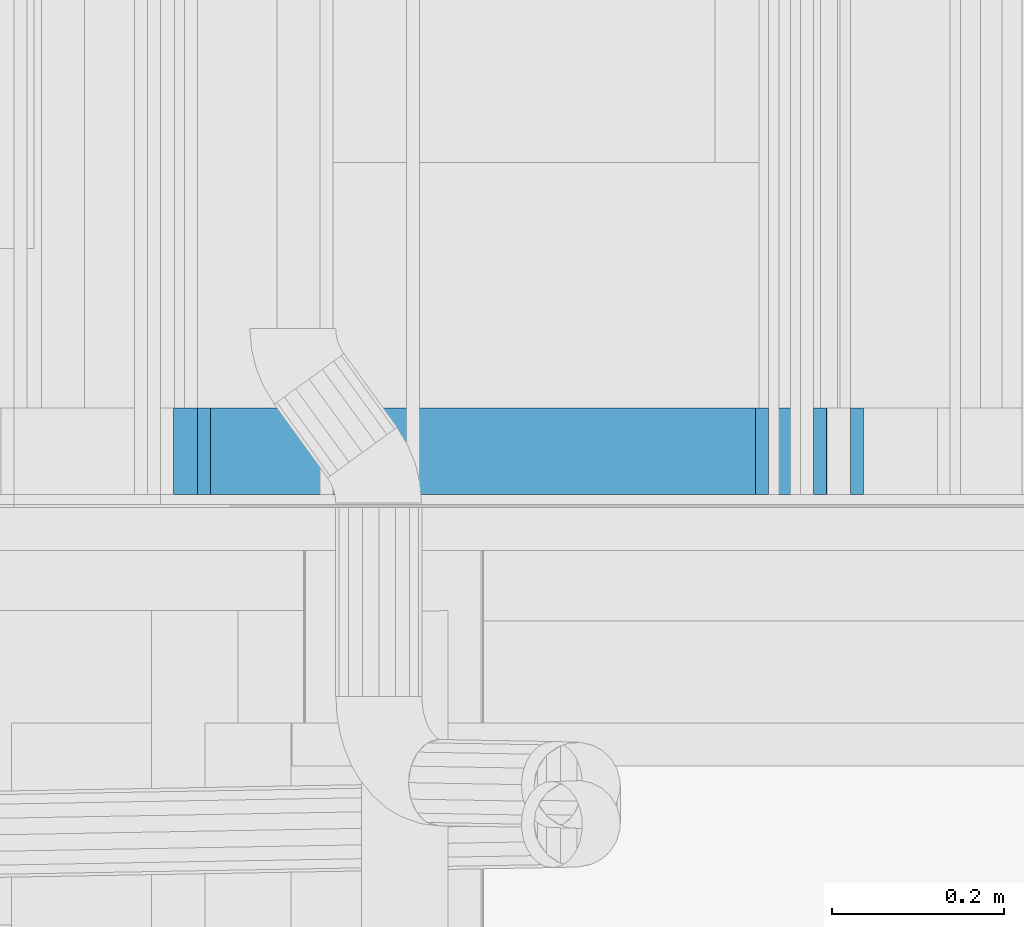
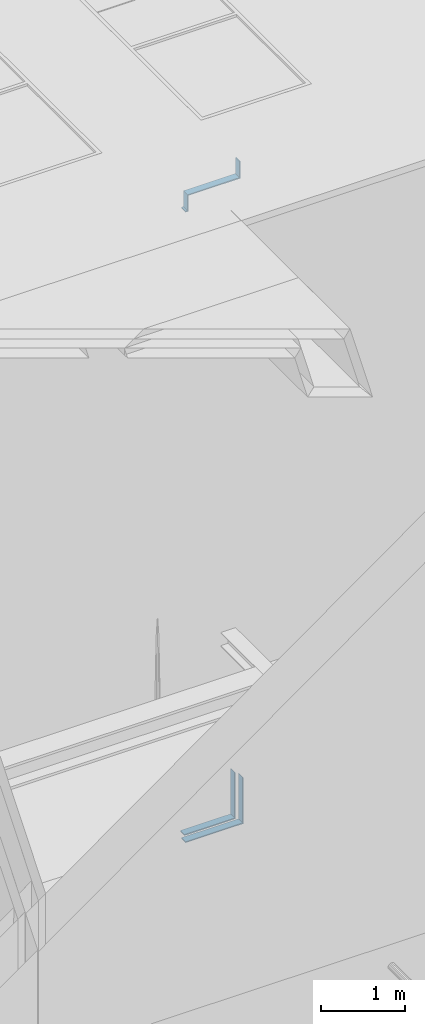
# One storey, part 186 of 583: 8 building element parts, 6 elements without a shape of their own.
"""IFC2X3 building model written with IfcOpenShell, lengths in metres."""

from ifc_helpers import new_model, entity, si_unit, converted_unit, derived_unit, money_unit, direction, frame, origin_with_axes, place, context, subcontext, project, spatial, polyline, outline, extrude, material, type_object, element, aggregate, save


model = new_model("IFC2X3")

# Units and contexts
model_context = context("Model", 3, precision=1e-05, world=origin_with_axes(), true_north=direction((0.0, 1.0)))
body_context = subcontext(model_context, "Body", "Model", "MODEL_VIEW", scale=1.0)
ifc_project = project(units=[si_unit("LENGTHUNIT", "METRE"), si_unit("AREAUNIT", "SQUARE_METRE"), si_unit("VOLUMEUNIT", "CUBIC_METRE"), si_unit("ABSORBEDDOSEUNIT", "GRAY"), si_unit("AMOUNTOFSUBSTANCEUNIT", "MOLE"), si_unit("DOSEEQUIVALENTUNIT", "SIEVERT"), si_unit("ELECTRICCAPACITANCEUNIT", "FARAD"), si_unit("ELECTRICCHARGEUNIT", "COULOMB"), si_unit("ELECTRICCONDUCTANCEUNIT", "SIEMENS"), si_unit("ELECTRICCURRENTUNIT", "AMPERE"), si_unit("ELECTRICRESISTANCEUNIT", "OHM"), si_unit("ELECTRICVOLTAGEUNIT", "VOLT"), si_unit("ENERGYUNIT", "JOULE"), si_unit("FORCEUNIT", "NEWTON"), si_unit("FREQUENCYUNIT", "HERTZ"), si_unit("ILLUMINANCEUNIT", "LUX"), si_unit("INDUCTANCEUNIT", "HENRY"), si_unit("LUMINOUSFLUXUNIT", "LUMEN"), si_unit("LUMINOUSINTENSITYUNIT", "CANDELA"), si_unit("MAGNETICFLUXDENSITYUNIT", "TESLA"), si_unit("MAGNETICFLUXUNIT", "WEBER"), si_unit("MASSUNIT", "GRAM"), converted_unit("PLANEANGLEUNIT", "degree", entity("IfcReal", 0.0174532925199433), si_unit("PLANEANGLEUNIT", "RADIAN"), dimensions=[0, 0, 0, 0, 0, 0, 0]), si_unit("POWERUNIT", "WATT"), si_unit("PRESSUREUNIT", "PASCAL"), si_unit("RADIOACTIVITYUNIT", "BECQUEREL"), si_unit("SOLIDANGLEUNIT", "STERADIAN"), si_unit("THERMODYNAMICTEMPERATUREUNIT", "KELVIN"), si_unit("TIMEUNIT", "SECOND"), derived_unit("ACCELERATIONUNIT", [(si_unit("LENGTHUNIT", "METRE"), 1), (si_unit("TIMEUNIT", "SECOND"), -2)]), derived_unit("ANGULARVELOCITYUNIT", [(converted_unit("PLANEANGLEUNIT", "degree", entity("IfcReal", 0.0174532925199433), si_unit("PLANEANGLEUNIT", "RADIAN"), dimensions=[0, 0, 0, 0, 0, 0, 0]), 1), (si_unit("TIMEUNIT", "SECOND"), -1)]), derived_unit("CURVATUREUNIT", [(converted_unit("PLANEANGLEUNIT", "degree", entity("IfcReal", 0.0174532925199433), si_unit("PLANEANGLEUNIT", "RADIAN"), dimensions=[0, 0, 0, 0, 0, 0, 0]), 1), (si_unit("LENGTHUNIT", "METRE"), -1)]), derived_unit("DYNAMICVISCOSITYUNIT", [(si_unit("PRESSUREUNIT", "PASCAL"), 1), (si_unit("TIMEUNIT", "SECOND"), 1)]), derived_unit("HEATFLUXDENSITYUNIT", [(si_unit("POWERUNIT", "WATT"), 1), (si_unit("LENGTHUNIT", "METRE"), -2)]), derived_unit("HEATINGVALUEUNIT", [(si_unit("ENERGYUNIT", "JOULE"), 1), (si_unit("MASSUNIT", "GRAM"), -1)]), derived_unit("INTEGERCOUNTRATEUNIT", [(si_unit("TIMEUNIT", "SECOND"), -1)]), derived_unit("IONCONCENTRATIONUNIT", [(si_unit("MASSUNIT", "GRAM"), 1), (si_unit("VOLUMEUNIT", "CUBIC_METRE"), -1)]), derived_unit("ISOTHERMALMOISTURECAPACITYUNIT", [(si_unit("VOLUMEUNIT", "CUBIC_METRE"), 1), (si_unit("MASSUNIT", "GRAM"), -1)]), derived_unit("KINEMATICVISCOSITYUNIT", [(si_unit("AREAUNIT", "SQUARE_METRE"), 1), (si_unit("TIMEUNIT", "SECOND"), -1)]), derived_unit("LINEARFORCEUNIT", [(si_unit("FORCEUNIT", "NEWTON"), 1), (si_unit("LENGTHUNIT", "METRE"), -1)]), derived_unit("LINEARMOMENTUNIT", [(si_unit("FORCEUNIT", "NEWTON"), 1), (si_unit("LENGTHUNIT", "METRE"), -1)]), derived_unit("LINEARSTIFFNESSUNIT", [(si_unit("FORCEUNIT", "NEWTON"), 1), (si_unit("LENGTHUNIT", "METRE"), -1)]), derived_unit("LINEARVELOCITYUNIT", [(si_unit("LENGTHUNIT", "METRE"), 1), (si_unit("TIMEUNIT", "SECOND"), -1)]), derived_unit("LUMINOUSINTENSITYDISTRIBUTIONUNIT", [(si_unit("LUMINOUSINTENSITYUNIT", "CANDELA"), 1), (si_unit("LUMINOUSFLUXUNIT", "LUMEN"), -1)]), derived_unit("MASSDENSITYUNIT", [(si_unit("MASSUNIT", "GRAM"), 1), (si_unit("VOLUMEUNIT", "CUBIC_METRE"), -1)]), derived_unit("MASSFLOWRATEUNIT", [(si_unit("MASSUNIT", "GRAM"), 1), (si_unit("TIMEUNIT", "SECOND"), -1)]), derived_unit("MASSPERLENGTHUNIT", [(si_unit("MASSUNIT", "GRAM"), 1), (si_unit("LENGTHUNIT", "METRE"), -1)]), derived_unit("MODULUSOFELASTICITYUNIT", [(si_unit("FORCEUNIT", "NEWTON"), 1), (si_unit("AREAUNIT", "SQUARE_METRE"), -1)]), derived_unit("MODULUSOFLINEARSUBGRADEREACTIONUNIT", [(si_unit("FORCEUNIT", "NEWTON"), 1), (si_unit("LENGTHUNIT", "METRE"), -2)]), derived_unit("MODULUSOFROTATIONALSUBGRADEREACTIONUNIT", [(si_unit("FORCEUNIT", "NEWTON"), 1), (si_unit("LENGTHUNIT", "METRE"), 1)]), derived_unit("MODULUSOFSUBGRADEREACTIONUNIT", [(si_unit("FORCEUNIT", "NEWTON"), 1), (si_unit("VOLUMEUNIT", "CUBIC_METRE"), -1)]), derived_unit("MOISTUREDIFFUSIVITYUNIT", [(si_unit("VOLUMEUNIT", "CUBIC_METRE"), 1), (si_unit("TIMEUNIT", "SECOND"), -1)]), derived_unit("MOLECULARWEIGHTUNIT", [(si_unit("MASSUNIT", "GRAM"), 1), (si_unit("AMOUNTOFSUBSTANCEUNIT", "MOLE"), -1)]), derived_unit("PLANARFORCEUNIT", [(si_unit("FORCEUNIT", "NEWTON"), 1), (si_unit("LENGTHUNIT", "METRE"), -2)]), derived_unit("ROTATIONALFREQUENCYUNIT", [(si_unit("TIMEUNIT", "SECOND"), -1)]), derived_unit("ROTATIONALMASSUNIT", [(si_unit("MASSUNIT", "GRAM"), 1), (si_unit("LENGTHUNIT", "METRE"), 2)]), derived_unit("ROTATIONALSTIFFNESSUNIT", [(si_unit("FORCEUNIT", "NEWTON"), 1), (si_unit("LENGTHUNIT", "METRE"), 1), (converted_unit("PLANEANGLEUNIT", "degree", entity("IfcReal", 0.0174532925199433), si_unit("PLANEANGLEUNIT", "RADIAN"), dimensions=[0, 0, 0, 0, 0, 0, 0]), -1)]), derived_unit("SECTIONAREAINTEGRALUNIT", [(si_unit("LENGTHUNIT", "METRE"), 5)]), derived_unit("SECTIONMODULUSUNIT", [(si_unit("LENGTHUNIT", "METRE"), 3)]), derived_unit("SHEARMODULUSUNIT", [(si_unit("FORCEUNIT", "NEWTON"), 1), (si_unit("AREAUNIT", "SQUARE_METRE"), -1)]), derived_unit("SOUNDPOWERUNIT", [(si_unit("ENERGYUNIT", "JOULE"), 1), (si_unit("TIMEUNIT", "SECOND"), -1)]), derived_unit("SPECIFICHEATCAPACITYUNIT", [(si_unit("FORCEUNIT", "NEWTON"), 1), (si_unit("MASSUNIT", "GRAM"), -1), (si_unit("THERMODYNAMICTEMPERATUREUNIT", "KELVIN"), -1)]), derived_unit("TEMPERATUREGRADIENTUNIT", [(si_unit("THERMODYNAMICTEMPERATUREUNIT", "KELVIN"), 1), (si_unit("LENGTHUNIT", "METRE"), -1)]), derived_unit("THERMALADMITTANCEUNIT", [(si_unit("POWERUNIT", "WATT"), 1), (si_unit("AREAUNIT", "SQUARE_METRE"), -1), (si_unit("THERMODYNAMICTEMPERATUREUNIT", "KELVIN"), -1)]), derived_unit("THERMALCONDUCTANCEUNIT", [(si_unit("POWERUNIT", "WATT"), 1), (si_unit("LENGTHUNIT", "METRE"), -1), (si_unit("THERMODYNAMICTEMPERATUREUNIT", "KELVIN"), -1)]), derived_unit("THERMALEXPANSIONCOEFFICIENTUNIT", [(si_unit("THERMODYNAMICTEMPERATUREUNIT", "KELVIN"), -1)]), derived_unit("THERMALRESISTANCEUNIT", [(si_unit("AREAUNIT", "SQUARE_METRE"), 1), (si_unit("POWERUNIT", "WATT"), -1)]), derived_unit("THERMALTRANSMITTANCEUNIT", [(si_unit("POWERUNIT", "WATT"), 1), (si_unit("AREAUNIT", "SQUARE_METRE"), -1), (si_unit("THERMODYNAMICTEMPERATUREUNIT", "KELVIN"), -1)]), derived_unit("TORQUEUNIT", [(si_unit("FORCEUNIT", "NEWTON"), 1), (si_unit("LENGTHUNIT", "METRE"), 1)]), derived_unit("VAPORPERMEABILITYUNIT", [(si_unit("MASSUNIT", "GRAM"), 1), (si_unit("TIMEUNIT", "SECOND"), -1)]), derived_unit("VOLUMETRICFLOWRATEUNIT", [(si_unit("VOLUMEUNIT", "CUBIC_METRE"), 1), (si_unit("TIMEUNIT", "SECOND"), -1)]), derived_unit("WARPINGCONSTANTUNIT", [(si_unit("LENGTHUNIT", "METRE"), 6)]), derived_unit("WARPINGMOMENTUNIT", [(si_unit("FORCEUNIT", "NEWTON"), 1), (si_unit("LENGTHUNIT", "METRE"), 2)]), money_unit("GBP")], contexts=[model_context])

# Site, building, storey
site_placement = place(None, origin_with_axes())
site = spatial("IfcSite", under=ifc_project, at=site_placement, Name="Site", CompositionType="ELEMENT")
building_placement = place(site_placement, origin_with_axes())
building = spatial("IfcBuilding", under=site, at=building_placement, Name="Building01", CompositionType="ELEMENT")
storey_placement = place(building_placement, frame((0.0, 0.0, 20.78), z_axis=(0.0, 0.0, 1.0), x_axis=(1.0, 0.0, 0.0)))
storey = spatial("IfcBuildingStorey", under=building, at=storey_placement, Name="RL", CompositionType="ELEMENT", Elevation=20.78)

# Wall, building element parts
wall_type_1 = type_object("IfcWallType", Name="SHE_A-Walls_Type05a_Partition_95mm_tall", PredefinedType="NOTDEFINED")
wall_1_placement = place(storey_placement, frame((8.82, 5.15, -3.506868), z_axis=(0.0, 1.0, 0.0), x_axis=(1.0, 0.0, 0.0)))
wall_1 = element("IfcWall", 1, at=wall_1_placement, inside=storey, type_object=wall_type_1, Name="5A", ObjectType="SHE_A-Walls_Type05a_Partition_95mm_tall")
ifc_material = material(Name="A_BSUK_Walls_Timber")
placement_1 = place(wall_1_placement, origin_with_axes())
building_element_part_1 = element("IfcBuildingElementPart", 2, at=placement_1, material=ifc_material, Name="2", context=body_context, shape_type="SweptSolid", body=[
    extrude(outline(polyline([(0.815, 0.05), (0.015, 0.05), (0.015, 0.035), (0.8, 0.035), (0.815, 0.05)])), frame((0.0, 0.0, 0.015), z_axis=(0.0, 0.0, 1.0), x_axis=(1.0, 0.0, 0.0)), (0.0, 0.0, 1.0), 0.1),
])
building_element_part_2 = element("IfcBuildingElementPart", 3, at=placement_1, material=ifc_material, Name="3", context=body_context, shape_type="SweptSolid", body=[
    extrude(outline(polyline([(0.705, -0.06), (0.0, -0.06), (0.0, -0.075), (0.69, -0.075), (0.705, -0.06)])), frame((0.0, 0.0, 0.015), z_axis=(0.0, 0.0, 1.0), x_axis=(1.0, 0.0, 0.0)), (0.0, 0.0, 1.0), 0.1),
])
aggregate(wall_1, [building_element_part_1, building_element_part_2])

wall_2_placement = place(storey_placement, frame((9.585, 5.15, -3.506868), z_axis=(0.0, 1.0, 0.0), x_axis=(0.0, 0.0, 1.0)))
wall_2 = element("IfcWall", 4, at=wall_2_placement, inside=storey, type_object=wall_type_1, Name="5A", ObjectType="SHE_A-Walls_Type05a_Partition_95mm_tall")
placement_2 = place(wall_2_placement, origin_with_axes())
building_element_part_3 = element("IfcBuildingElementPart", 5, at=placement_2, material=ifc_material, Name="2", context=body_context, shape_type="SweptSolid", body=[
    extrude(outline(polyline([(0.616868, 0.05), (-0.05, 0.05), (-0.035, 0.035), (0.631868, 0.035), (0.616868, 0.05)])), frame((0.0, 0.0, 0.015), z_axis=(0.0, 0.0, 1.0), x_axis=(1.0, 0.0, 0.0)), (0.0, 0.0, 1.0), 0.1),
])
building_element_part_4 = element("IfcBuildingElementPart", 6, at=placement_2, material=ifc_material, Name="3", context=body_context, shape_type="SweptSolid", body=[
    extrude(outline(polyline([(0.726868, -0.06), (0.06, -0.06), (0.075, -0.075), (0.741868, -0.075), (0.726868, -0.06)])), frame((0.0, 0.0, 0.015), z_axis=(0.0, 0.0, 1.0), x_axis=(1.0, 0.0, 0.0)), (0.0, 0.0, 1.0), 0.1),
])
aggregate(wall_2, [building_element_part_3, building_element_part_4])

# Wall, building element part
wall_type_2 = type_object("IfcWallType", Name="SHE_A-Walls_Type06f_ExternalWallInsulation_48+15mm", PredefinedType="NOTDEFINED")
wall_3_placement = place(storey_placement, frame((8.818, 5.15, 5.682), z_axis=(0.0, 1.0, 0.0), x_axis=(0.0, 0.0, 1.0)))
wall_3 = element("IfcWall", 7, at=wall_3_placement, inside=storey, type_object=wall_type_2, Name="6F", ObjectType="SHE_A-Walls_Type06f_ExternalWallInsulation_48+15mm")
building_element_part_5_placement = place(wall_3_placement, origin_with_axes())
building_element_part_5 = element("IfcBuildingElementPart", 8, at=building_element_part_5_placement, material=ifc_material, Name="2", context=body_context, shape_type="SweptSolid", body=[
    extrude(outline(polyline([(0.17, 0.06), (-0.06, 0.06), (-0.045, 0.045), (0.185, 0.045), (0.17, 0.06)])), frame((0.0, 0.0, 0.015), z_axis=(0.0, 0.0, 1.0), x_axis=(1.0, 0.0, 0.0)), (0.0, 0.0, 1.0), 0.1),
])
aggregate(wall_3, [building_element_part_5])

wall_4_placement = place(storey_placement, frame((8.818, 5.15, 5.912), z_axis=(0.0, 1.0, 0.0), x_axis=(1.0, 0.0, 0.0)))
wall_4 = element("IfcWall", 9, at=wall_4_placement, inside=storey, type_object=wall_type_2, Name="6F", ObjectType="SHE_A-Walls_Type06f_ExternalWallInsulation_48+15mm")
building_element_part_6_placement = place(wall_4_placement, origin_with_axes())
building_element_part_6 = element("IfcBuildingElementPart", 10, at=building_element_part_6_placement, material=ifc_material, Name="2", context=body_context, shape_type="SweptSolid", body=[
    extrude(outline(polyline([(0.77418, 0.06), (0.06, 0.06), (0.045, 0.045), (0.75918, 0.045), (0.77418, 0.06)])), frame((0.0, 0.0, 0.015), z_axis=(0.0, 0.0, 1.0), x_axis=(1.0, 0.0, 0.0)), (0.0, 0.0, 1.0), 0.1),
])
aggregate(wall_4, [building_element_part_6])

wall_5_placement = place(storey_placement, frame((9.53218, 5.15, 5.912), z_axis=(0.0, 1.0, 0.0), x_axis=(0.0, 0.0, 1.0)))
wall_5 = element("IfcWall", 11, at=wall_5_placement, inside=storey, type_object=wall_type_2, Name="6F", ObjectType="SHE_A-Walls_Type06f_ExternalWallInsulation_48+15mm")
building_element_part_7_placement = place(wall_5_placement, origin_with_axes())
building_element_part_7 = element("IfcBuildingElementPart", 12, at=building_element_part_7_placement, material=ifc_material, Name="2", context=body_context, shape_type="SweptSolid", body=[
    extrude(outline(polyline([(-0.06, 0.06), (-0.045, 0.045), (0.188, 0.045), (0.188, 0.06), (-0.06, 0.06)])), frame((0.0, 0.0, 0.015), z_axis=(0.0, 0.0, 1.0), x_axis=(1.0, 0.0, 0.0)), (0.0, 0.0, 1.0), 0.1),
])
aggregate(wall_5, [building_element_part_7])

wall_6_placement = place(storey_placement, frame((8.382, 5.15, 5.682), z_axis=(0.0, 1.0, 0.0), x_axis=(1.0, 0.0, 0.0)))
wall_6 = element("IfcWall", 13, at=wall_6_placement, inside=storey, type_object=wall_type_2, Name="6F", ObjectType="SHE_A-Walls_Type06f_ExternalWallInsulation_48+15mm")
building_element_part_8_placement = place(wall_6_placement, origin_with_axes())
building_element_part_8 = element("IfcBuildingElementPart", 14, at=building_element_part_8_placement, material=ifc_material, Name="4", context=body_context, shape_type="SweptSolid", body=[
    extrude(outline(polyline([(0.496, 0.06), (0.453, 0.06), (0.453, 0.045), (0.481, 0.045), (0.496, 0.06)])), frame((0.0, 0.0, 0.015), z_axis=(0.0, 0.0, 1.0), x_axis=(1.0, 0.0, 0.0)), (0.0, 0.0, 1.0), 0.1),
])
aggregate(wall_6, [building_element_part_8])

save(model, "model.ifc")
